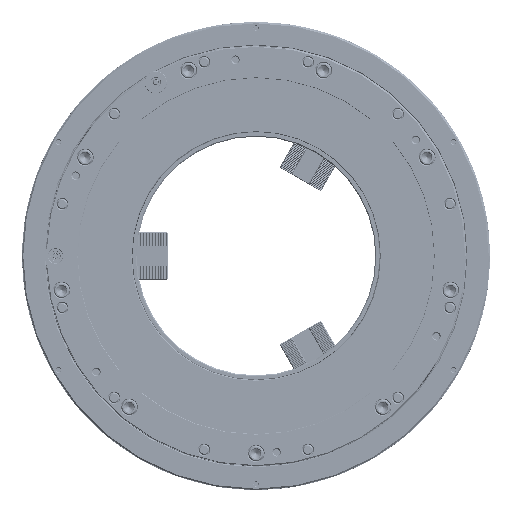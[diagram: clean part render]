
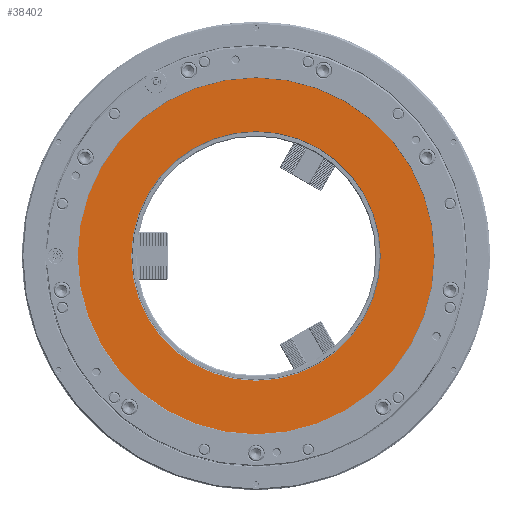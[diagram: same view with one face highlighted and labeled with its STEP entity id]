
A CAD part, left-side view. The second image highlights one B-rep face of the part: STEP entity #38402.
In plain terms, the highlighted planar face has unit normal (-1, 0, 0).
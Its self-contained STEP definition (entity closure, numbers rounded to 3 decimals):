
#4277 = DIRECTION ( 'NONE',  ( 1., 0., 0. ) ) ;
#4854 = CARTESIAN_POINT ( 'NONE',  ( -20., 0., -280. ) ) ;
#17766 = PLANE ( 'NONE',  #180969 ) ;
#29742 = CARTESIAN_POINT ( 'NONE',  ( -20., 0., -196. ) ) ;
#37164 = FACE_BOUND ( 'NONE', #200264, .T. ) ;
#37595 = DIRECTION ( 'NONE',  ( 0., 0., 1. ) ) ;
#38402 = ADVANCED_FACE ( 'NONE', ( #134030, #37164 ), #17766, .F. ) ;
#48607 = CARTESIAN_POINT ( 'NONE',  ( -20., 0., 196. ) ) ;
#50260 = CARTESIAN_POINT ( 'NONE',  ( -20., 0., 0. ) ) ;
#51857 = DIRECTION ( 'NONE',  ( 1., 0., 0. ) ) ;
#75792 = CIRCLE ( 'NONE', #80887, 196. ) ;
#80887 = AXIS2_PLACEMENT_3D ( 'NONE', #94760, #139973, #120497 ) ;
#83179 = CIRCLE ( 'NONE', #248130, 280. ) ;
#87178 = DIRECTION ( 'NONE',  ( 1., 0., 0. ) ) ;
#94760 = CARTESIAN_POINT ( 'NONE',  ( -20., 0., 0. ) ) ;
#95209 = AXIS2_PLACEMENT_3D ( 'NONE', #50260, #51857, #224538 ) ;
#96678 = ORIENTED_EDGE ( 'NONE', *, *, #101713, .T. ) ;
#101713 = EDGE_CURVE ( 'NONE', #170336, #174630, #234338, .T. ) ;
#102697 = CARTESIAN_POINT ( 'NONE',  ( -20., 0., 0. ) ) ;
#106870 = ORIENTED_EDGE ( 'NONE', *, *, #270318, .F. ) ;
#116183 = DIRECTION ( 'NONE',  ( 0., 0., -1. ) ) ;
#120497 = DIRECTION ( 'NONE',  ( 0., 0., 1. ) ) ;
#131648 = DIRECTION ( 'NONE',  ( 0., 0., 1. ) ) ;
#134030 = FACE_OUTER_BOUND ( 'NONE', #183396, .T. ) ;
#139973 = DIRECTION ( 'NONE',  ( 1., 0., 0. ) ) ;
#170336 = VERTEX_POINT ( 'NONE', #48607 ) ;
#174630 = VERTEX_POINT ( 'NONE', #29742 ) ;
#180969 = AXIS2_PLACEMENT_3D ( 'NONE', #185625, #87178, #116183 ) ;
#182684 = VERTEX_POINT ( 'NONE', #188367 ) ;
#183396 = EDGE_LOOP ( 'NONE', ( #219822, #106870 ) ) ;
#185625 = CARTESIAN_POINT ( 'NONE',  ( -20., 196., 0. ) ) ;
#188367 = CARTESIAN_POINT ( 'NONE',  ( -20., 0., 280. ) ) ;
#190507 = CIRCLE ( 'NONE', #211177, 280. ) ;
#200264 = EDGE_LOOP ( 'NONE', ( #96678, #302644 ) ) ;
#208638 = DIRECTION ( 'NONE',  ( 1., 0., 0. ) ) ;
#211177 = AXIS2_PLACEMENT_3D ( 'NONE', #102697, #4277, #131648 ) ;
#215051 = VERTEX_POINT ( 'NONE', #4854 ) ;
#219822 = ORIENTED_EDGE ( 'NONE', *, *, #268676, .F. ) ;
#223991 = EDGE_CURVE ( 'NONE', #174630, #170336, #75792, .T. ) ;
#224538 = DIRECTION ( 'NONE',  ( 0., 0., 1. ) ) ;
#234338 = CIRCLE ( 'NONE', #95209, 196. ) ;
#248130 = AXIS2_PLACEMENT_3D ( 'NONE', #257151, #208638, #37595 ) ;
#257151 = CARTESIAN_POINT ( 'NONE',  ( -20., 0., 0. ) ) ;
#268676 = EDGE_CURVE ( 'NONE', #182684, #215051, #190507, .T. ) ;
#270318 = EDGE_CURVE ( 'NONE', #215051, #182684, #83179, .T. ) ;
#302644 = ORIENTED_EDGE ( 'NONE', *, *, #223991, .T. ) ;
